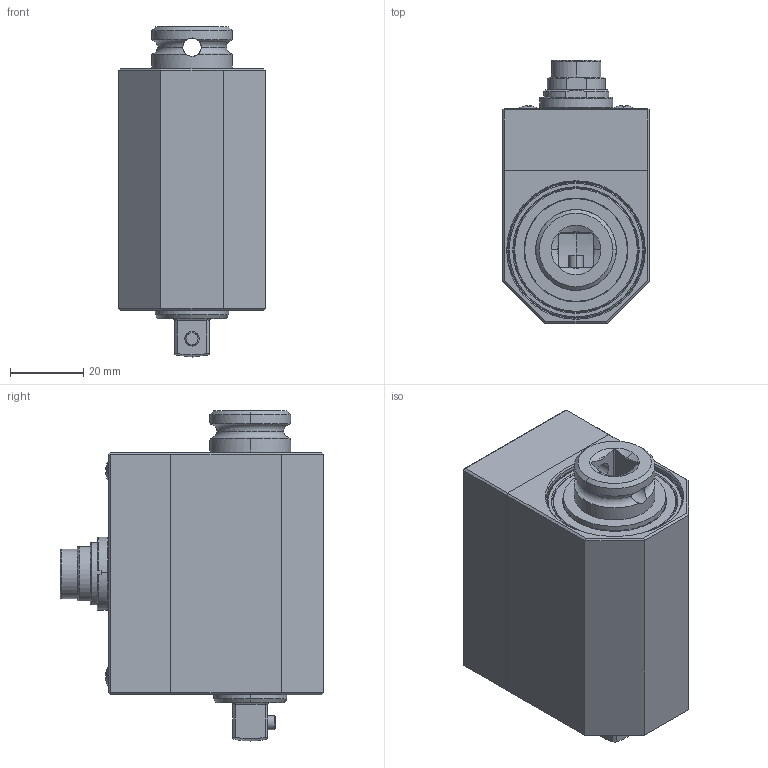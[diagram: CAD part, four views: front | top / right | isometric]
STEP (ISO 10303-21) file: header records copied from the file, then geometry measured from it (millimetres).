
FILE_DESCRIPTION (( 'STEP AP203' ), '1' );
FILE_NAME ('DRFN 3-8-w.STEP', '2014-03-20T06:43:43', ( 'nsi' ), ( '' ), 'SwSTEP 2.0', 'SolidWorks 2014', '' );
FILE_SCHEMA (( 'CONFIG_CONTROL_DESIGN' ));
Length unit declared in the file: millimetre
Products named in the file (1): DRFN 3-8-w
Bounding box: 40 x 71.8 x 90 mm (x, y, z)
Surface area: 24121.9 mm2 (no closed solid volume)
Topology: 0 solids, 20 shells, 344 faces, 1023 edges, 683 vertices
Faces by surface type: plane 120, cylinder 90, cone 57, torus 55, sphere 22
Entity records: 11815 total; most frequent: CARTESIAN_POINT 2753, DIRECTION 2018, ORIENTED_EDGE 1668, EDGE_CURVE 983, AXIS2_PLACEMENT_3D 821, VERTEX_POINT 659, CIRCLE 476, EDGE_LOOP 387
